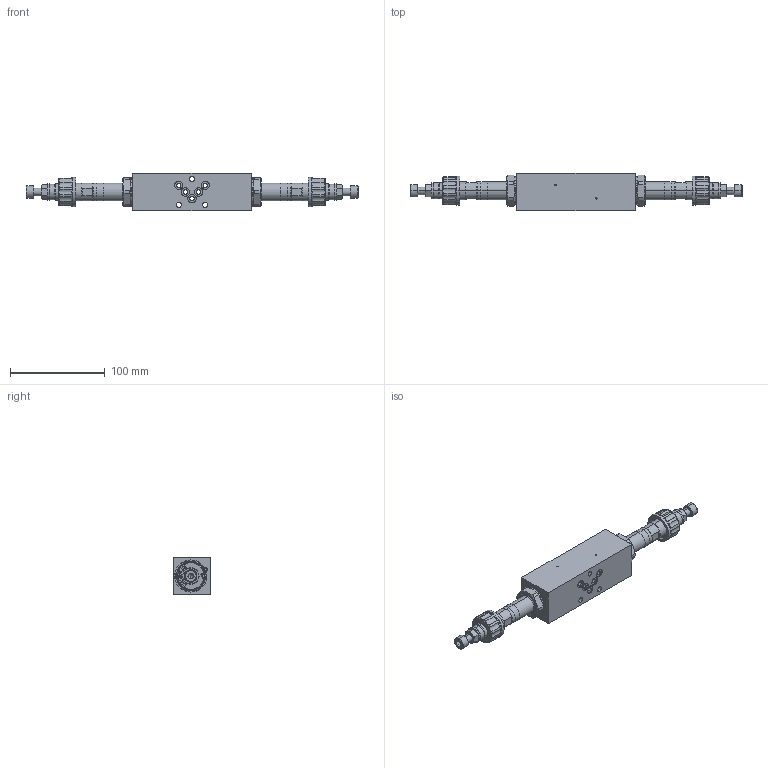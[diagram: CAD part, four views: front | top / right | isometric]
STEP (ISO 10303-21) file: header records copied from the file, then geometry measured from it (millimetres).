
FILE_DESCRIPTION (( 'STEP AP214' ), '1' );
FILE_NAME ('B.ISA04-AB.STEP', '2017-03-23T14:58:41', ( '' ), ( '' ), 'SwSTEP 2.0', 'SolidWorks 2016', '' );
FILE_SCHEMA (( 'AUTOMOTIVE_DESIGN' ));
Length unit declared in the file: millimetre
Products named in the file (1): B.ISA04-AB
Bounding box: 350.6 x 39.5 x 40 mm (x, y, z)
Volume: 266390.1 mm3; surface area: 50172.1 mm2
Topology: 3 solids, 3 shells, 741 faces, 1828 edges, 1162 vertices
Faces by surface type: plane 381, cylinder 170, cone 114, bspline 44, torus 28, sphere 4
Entity records: 32405 total; most frequent: CARTESIAN_POINT 6808, ORIENTED_EDGE 3648, DIRECTION 3562, EDGE_CURVE 1824, AXIS2_PLACEMENT_3D 1272, VERTEX_POINT 1162, LINE 1018, VECTOR 1018
